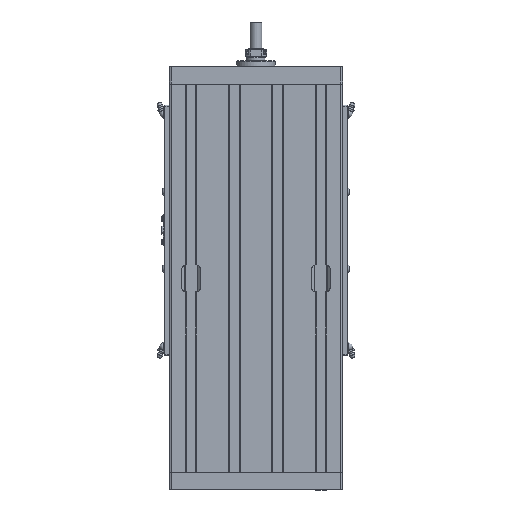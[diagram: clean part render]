
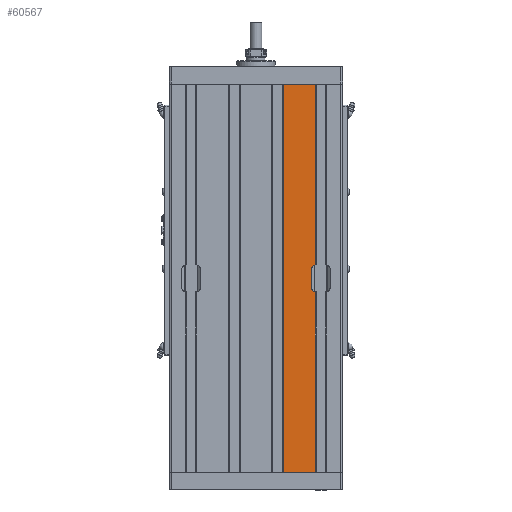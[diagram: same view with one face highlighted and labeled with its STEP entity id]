
A CAD part, front view. The second image highlights one B-rep face of the part: STEP entity #60567.
In plain terms, the highlighted planar face has unit normal (0, -1, 0).
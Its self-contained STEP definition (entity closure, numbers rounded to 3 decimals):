
#1914=PLANE('',#64465);
#3975=FACE_OUTER_BOUND('',#7473,.T.);
#7473=EDGE_LOOP('',(#40125,#40126,#40127,#40128,#40129,#40130,#40131,#40132));
#11465=LINE('',#88370,#17062);
#11489=LINE('',#88448,#17086);
#11490=LINE('',#88450,#17087);
#11491=LINE('',#88452,#17088);
#11492=LINE('',#88454,#17089);
#11493=LINE('',#88455,#17090);
#17062=VECTOR('',#70691,10.);
#17086=VECTOR('',#70755,10.);
#17087=VECTOR('',#70756,10.);
#17088=VECTOR('',#70757,10.);
#17089=VECTOR('',#70758,10.);
#17090=VECTOR('',#70759,10.);
#22549=CIRCLE('',#64439,4.);
#22550=CIRCLE('',#64441,4.);
#25228=VERTEX_POINT('',#88337);
#25229=VERTEX_POINT('',#88339);
#25230=VERTEX_POINT('',#88343);
#25232=VERTEX_POINT('',#88346);
#25260=VERTEX_POINT('',#88447);
#25261=VERTEX_POINT('',#88449);
#25262=VERTEX_POINT('',#88451);
#25263=VERTEX_POINT('',#88453);
#31077=EDGE_CURVE('',#25229,#25228,#22549,.T.);
#31080=EDGE_CURVE('',#25232,#25230,#22550,.T.);
#31090=EDGE_CURVE('',#25228,#25232,#11465,.T.);
#31124=EDGE_CURVE('',#25230,#25260,#11489,.T.);
#31125=EDGE_CURVE('',#25261,#25260,#11490,.T.);
#31126=EDGE_CURVE('',#25262,#25261,#11491,.T.);
#31127=EDGE_CURVE('',#25263,#25262,#11492,.T.);
#31128=EDGE_CURVE('',#25263,#25229,#11493,.T.);
#40125=ORIENTED_EDGE('',*,*,#31077,.T.);
#40126=ORIENTED_EDGE('',*,*,#31090,.T.);
#40127=ORIENTED_EDGE('',*,*,#31080,.T.);
#40128=ORIENTED_EDGE('',*,*,#31124,.T.);
#40129=ORIENTED_EDGE('',*,*,#31125,.F.);
#40130=ORIENTED_EDGE('',*,*,#31126,.F.);
#40131=ORIENTED_EDGE('',*,*,#31127,.F.);
#40132=ORIENTED_EDGE('',*,*,#31128,.T.);
#60567=ADVANCED_FACE('',(#3975),#1914,.T.);
#64439=AXIS2_PLACEMENT_3D('',#88340,#70669,#70670);
#64441=AXIS2_PLACEMENT_3D('',#88347,#70675,#70676);
#64465=AXIS2_PLACEMENT_3D('',#88446,#70753,#70754);
#70669=DIRECTION('center_axis',(0.,1.,0.));
#70670=DIRECTION('ref_axis',(-1.,0.,0.));
#70675=DIRECTION('center_axis',(0.,1.,0.));
#70676=DIRECTION('ref_axis',(0.,0.,1.));
#70691=DIRECTION('',(0.,0.,1.));
#70753=DIRECTION('center_axis',(0.,-1.,0.));
#70754=DIRECTION('ref_axis',(1.,0.,0.));
#70755=DIRECTION('',(0.,0.,1.));
#70756=DIRECTION('',(1.,0.,0.));
#70757=DIRECTION('',(0.,0.,1.));
#70758=DIRECTION('',(-1.,0.,0.));
#70759=DIRECTION('',(0.,0.,1.));
#88337=CARTESIAN_POINT('',(58.,-45.,-60.));
#88339=CARTESIAN_POINT('',(61.4,-45.,-63.955));
#88340=CARTESIAN_POINT('Origin',(62.,-45.,-60.));
#88343=CARTESIAN_POINT('',(61.4,-45.,-36.045));
#88346=CARTESIAN_POINT('',(58.,-45.,-40.));
#88347=CARTESIAN_POINT('Origin',(62.,-45.,-40.));
#88370=CARTESIAN_POINT('',(58.,-45.,-30.));
#88446=CARTESIAN_POINT('Origin',(28.6,-45.,0.));
#88447=CARTESIAN_POINT('',(61.4,-45.,152.));
#88448=CARTESIAN_POINT('',(61.4,-45.,0.));
#88449=CARTESIAN_POINT('',(28.6,-45.,152.));
#88450=CARTESIAN_POINT('',(28.6,-45.,152.));
#88451=CARTESIAN_POINT('',(28.6,-45.,-252.));
#88452=CARTESIAN_POINT('',(28.6,-45.,0.));
#88453=CARTESIAN_POINT('',(61.4,-45.,-252.));
#88454=CARTESIAN_POINT('',(61.4,-45.,-252.));
#88455=CARTESIAN_POINT('',(61.4,-45.,0.));
